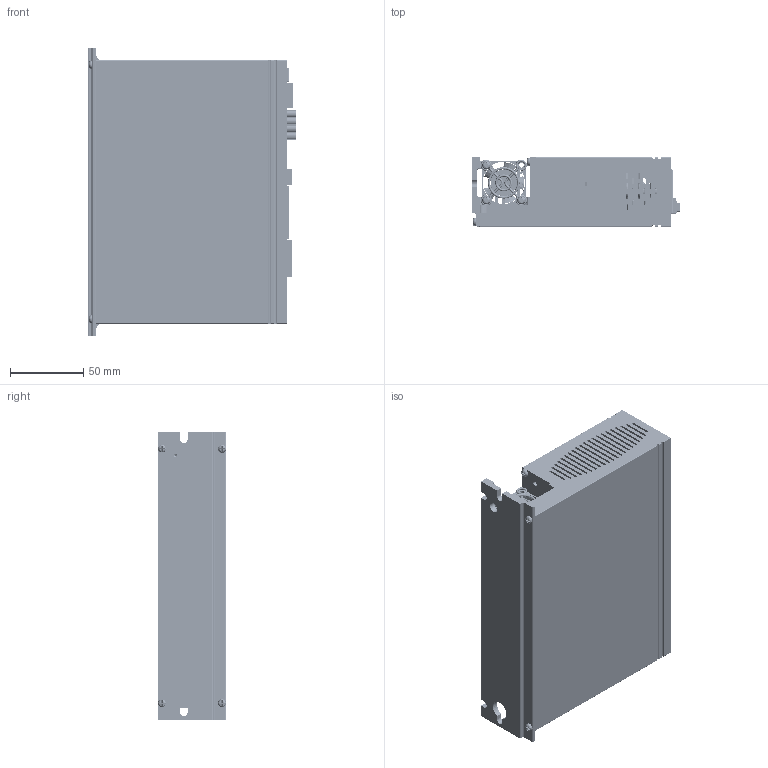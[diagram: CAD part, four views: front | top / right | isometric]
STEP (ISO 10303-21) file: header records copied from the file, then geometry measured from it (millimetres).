
FILE_DESCRIPTION((''),'2;1');
FILE_NAME('SW5_ISD00_ASM','2020-07-28T10:27:24',('Matteo Maccalli'),(''),'CREO PARAMETRIC BY PTC INC, 2019344','CREO PARAMETRIC BY PTC INC, 2019344','');
FILE_SCHEMA(('AUTOMOTIVE_DESIGN { 1 0 10303 214 1 1 1 1 }'));
Products named in the file (181): ISD00_DISSIPATORE-03; AD_00883-03_ISD00; SCATOLA_SW5_D-04; ACC_2E9X9E5; FAN-HOUSE-30X30X10-PROMOCO_FAN-; FAN-30X30X10-PROMOCO_FAN-KDE050; GRIGLIA_30X30; ACC_2E9X19; ISD00_EARTH_FIX-01; AD_01053_ISD00_BLK; BOARD-185; CPP_4X13X9_P10_1_2; CY204_1_ASM; CPP_4X13X9_P10; CY203_1_ASM; CY202_1_ASM; 79202-X02LF; JMP500_ASM; CE_35X30_P10; CE202_ASM; BOARD-38953; USER_LIBRARY-TSSOP-16-1_1_2; IC402_ASM; USER_LIBRARY-ARRAY-1206-4-58410; USER_LIBRARY-ARRAY-1206-4-68119; USER_LIBRARY-ARRAY-1206-4-70352; USER_LIBRARY-ARRAY-1206-4-76785; USER_LIBRARY-ARRAY-1206-4-58388_ASM; RN403_ASM; RN402_ASM; RN401_ASM; RN105_ASM; RN104_ASM; USER_LIBRARY-RES0603-1_1_2; R405_ASM; USER_LIBRARY-TSSOP-16-1; IC401_ASM; IC100_ASM; SW3DPS-0603_SMD_CAPACITOR_1_2; C401_ASM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
Assembly tree (212 placements, depth 8):
  SW5_ISD00_ASM
    ISD00_DISSIPATORE-03
    AD_00883-03_ISD00
    SCATOLA_SW5_D-04
    ACC_2E9X9E5  x4
    FAN-HOUSE-30X30X10-PROMOCO_FAN-
    FAN-30X30X10-PROMOCO_FAN-KDE050
    GRIGLIA_30X30
    ACC_2E9X19  x3
    ISD00_EARTH_FIX-01
    AD_01053_ISD00_BLK
    ASM0001_ASM
      PCB_ASM
        BOARD-185
        CY204_1_ASM
          CPP_4X13X9_P10_1_2
        CY203_1_ASM
          CPP_4X13X9_P10
        CY202_1_ASM
          CPP_4X13X9_P10
        JMP500_ASM
          79202-X02LF  x2
        CE202_ASM
          CE_35X30_P10
        VIS400-38854_ASM
          ISD00VIS-02_ASM
            BOARD-38953
            IC402_ASM
              USER_LIBRARY-TSSOP-16-1_1_2
            RN403_ASM
              USER_LIBRARY-ARRAY-1206-4-58388_ASM
                USER_LIBRARY-ARRAY-1206-4-58410
                USER_LIBRARY-ARRAY-1206-4-68119
                USER_LIBRARY-ARRAY-1206-4-70352
                USER_LIBRARY-ARRAY-1206-4-76785
            RN402_ASM
              USER_LIBRARY-ARRAY-1206-4-58388_ASM
                USER_LIBRARY-ARRAY-1206-4-58410
                USER_LIBRARY-ARRAY-1206-4-68119
                USER_LIBRARY-ARRAY-1206-4-70352
                USER_LIBRARY-ARRAY-1206-4-76785
            RN401_ASM
              USER_LIBRARY-ARRAY-1206-4-58388_ASM
                USER_LIBRARY-ARRAY-1206-4-58410
                USER_LIBRARY-ARRAY-1206-4-68119
                USER_LIBRARY-ARRAY-1206-4-70352
                USER_LIBRARY-ARRAY-1206-4-76785
            RN105_ASM
              USER_LIBRARY-ARRAY-1206-4-58388_ASM
                USER_LIBRARY-ARRAY-1206-4-58410
                USER_LIBRARY-ARRAY-1206-4-68119
                USER_LIBRARY-ARRAY-1206-4-70352
                USER_LIBRARY-ARRAY-1206-4-76785
            RN104_ASM
              USER_LIBRARY-ARRAY-1206-4-58388_ASM
                USER_LIBRARY-ARRAY-1206-4-58410
                USER_LIBRARY-ARRAY-1206-4-68119
                USER_LIBRARY-ARRAY-1206-4-70352
                USER_LIBRARY-ARRAY-1206-4-76785
            R405_ASM
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Bounding box: 142.78 x 47 x 196.6 mm (x, y, z)
Volume: 453782 mm3; surface area: 342036.3 mm2
Topology: 151 solids, 158 shells, 13501 faces, 36374 edges, 23488 vertices
Faces by surface type: plane 9148, cylinder 2813, extrusion 865, cone 242, bspline 212, sphere 112, torus 109
Entity records: 453229 total; most frequent: CARTESIAN_POINT 84433, ORIENTED_EDGE 54650, DIRECTION 50100, PRESENTATION_STYLE_ASSIGNMENT 28300, EDGE_CURVE 27339, STYLED_ITEM 23795, CURVE_STYLE 23327, VECTOR 20422
